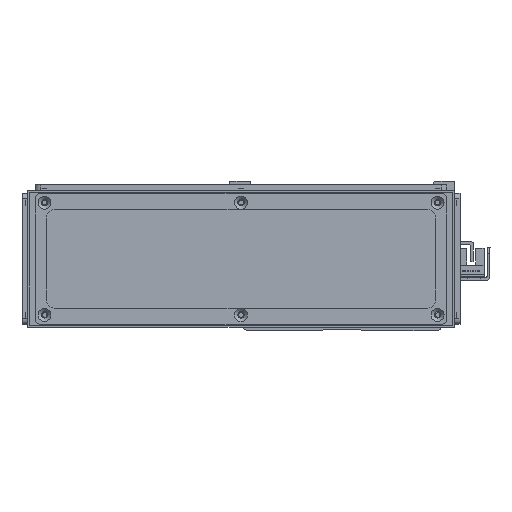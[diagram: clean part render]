
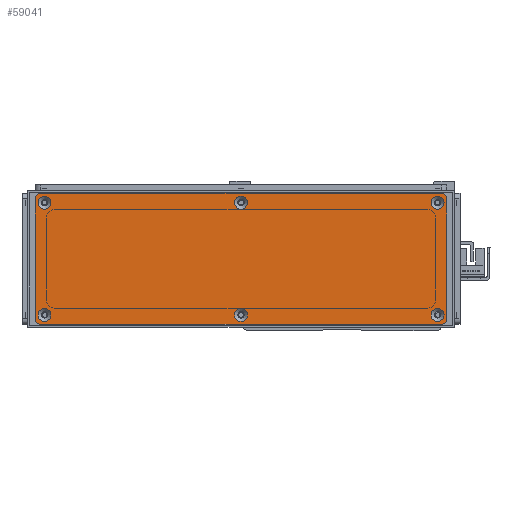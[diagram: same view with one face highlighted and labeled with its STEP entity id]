
A CAD part, front view. The second image highlights one B-rep face of the part: STEP entity #59041.
In plain terms, the highlighted planar face has unit normal (0, -1, 0).
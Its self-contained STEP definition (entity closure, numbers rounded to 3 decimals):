
#2574=FACE_BOUND('',#10182,.T.);
#2575=FACE_BOUND('',#10183,.T.);
#2576=FACE_BOUND('',#10184,.T.);
#2577=FACE_BOUND('',#10185,.T.);
#2578=FACE_BOUND('',#10186,.T.);
#2579=FACE_BOUND('',#10187,.T.);
#3894=CIRCLE('',#63621,3.45);
#3897=CIRCLE('',#63626,3.45);
#3900=CIRCLE('',#63631,3.45);
#3903=CIRCLE('',#63636,3.45);
#3906=CIRCLE('',#63641,3.45);
#3909=CIRCLE('',#63646,3.45);
#3912=CIRCLE('',#63651,3.);
#3914=CIRCLE('',#63654,3.);
#3915=CIRCLE('',#63655,3.);
#3916=CIRCLE('',#63656,3.);
#6799=FACE_OUTER_BOUND('',#10181,.T.);
#10181=EDGE_LOOP('',(#53491,#53492,#53493,#53494,#53495,#53496,#53497,#53498));
#10182=EDGE_LOOP('',(#53499));
#10183=EDGE_LOOP('',(#53500));
#10184=EDGE_LOOP('',(#53501));
#10185=EDGE_LOOP('',(#53502));
#10186=EDGE_LOOP('',(#53503));
#10187=EDGE_LOOP('',(#53504));
#16747=LINE('',#99151,#23344);
#16748=LINE('',#99155,#23345);
#16749=LINE('',#99159,#23346);
#16750=LINE('',#99162,#23347);
#23344=VECTOR('',#78577,10.);
#23345=VECTOR('',#78580,10.);
#23346=VECTOR('',#78583,10.);
#23347=VECTOR('',#78586,10.);
#28915=VERTEX_POINT('',#99081);
#28918=VERTEX_POINT('',#99091);
#28921=VERTEX_POINT('',#99101);
#28924=VERTEX_POINT('',#99111);
#28927=VERTEX_POINT('',#99121);
#28930=VERTEX_POINT('',#99131);
#28933=VERTEX_POINT('',#99141);
#28934=VERTEX_POINT('',#99142);
#28937=VERTEX_POINT('',#99150);
#28938=VERTEX_POINT('',#99152);
#28939=VERTEX_POINT('',#99154);
#28940=VERTEX_POINT('',#99156);
#28941=VERTEX_POINT('',#99158);
#28942=VERTEX_POINT('',#99160);
#37127=EDGE_CURVE('',#28915,#28915,#3894,.T.);
#37132=EDGE_CURVE('',#28918,#28918,#3897,.T.);
#37137=EDGE_CURVE('',#28921,#28921,#3900,.T.);
#37142=EDGE_CURVE('',#28924,#28924,#3903,.T.);
#37147=EDGE_CURVE('',#28927,#28927,#3906,.T.);
#37152=EDGE_CURVE('',#28930,#28930,#3909,.T.);
#37157=EDGE_CURVE('',#28933,#28934,#3912,.T.);
#37161=EDGE_CURVE('',#28933,#28937,#16747,.T.);
#37162=EDGE_CURVE('',#28938,#28937,#3914,.T.);
#37163=EDGE_CURVE('',#28938,#28939,#16748,.T.);
#37164=EDGE_CURVE('',#28940,#28939,#3915,.T.);
#37165=EDGE_CURVE('',#28940,#28941,#16749,.T.);
#37166=EDGE_CURVE('',#28942,#28941,#3916,.T.);
#37167=EDGE_CURVE('',#28942,#28934,#16750,.T.);
#53491=ORIENTED_EDGE('',*,*,#37157,.F.);
#53492=ORIENTED_EDGE('',*,*,#37161,.T.);
#53493=ORIENTED_EDGE('',*,*,#37162,.F.);
#53494=ORIENTED_EDGE('',*,*,#37163,.T.);
#53495=ORIENTED_EDGE('',*,*,#37164,.F.);
#53496=ORIENTED_EDGE('',*,*,#37165,.T.);
#53497=ORIENTED_EDGE('',*,*,#37166,.F.);
#53498=ORIENTED_EDGE('',*,*,#37167,.T.);
#53499=ORIENTED_EDGE('',*,*,#37127,.T.);
#53500=ORIENTED_EDGE('',*,*,#37132,.T.);
#53501=ORIENTED_EDGE('',*,*,#37137,.T.);
#53502=ORIENTED_EDGE('',*,*,#37142,.T.);
#53503=ORIENTED_EDGE('',*,*,#37147,.T.);
#53504=ORIENTED_EDGE('',*,*,#37152,.T.);
#56179=PLANE('',#63653);
#59041=ADVANCED_FACE('',(#6799,#2574,#2575,#2576,#2577,#2578,#2579),#56179,
 .T.);
#63621=AXIS2_PLACEMENT_3D('',#99082,#78497,#78498);
#63626=AXIS2_PLACEMENT_3D('',#99092,#78509,#78510);
#63631=AXIS2_PLACEMENT_3D('',#99102,#78521,#78522);
#63636=AXIS2_PLACEMENT_3D('',#99112,#78533,#78534);
#63641=AXIS2_PLACEMENT_3D('',#99122,#78545,#78546);
#63646=AXIS2_PLACEMENT_3D('',#99132,#78557,#78558);
#63651=AXIS2_PLACEMENT_3D('',#99143,#78569,#78570);
#63653=AXIS2_PLACEMENT_3D('',#99149,#78575,#78576);
#63654=AXIS2_PLACEMENT_3D('',#99153,#78578,#78579);
#63655=AXIS2_PLACEMENT_3D('',#99157,#78581,#78582);
#63656=AXIS2_PLACEMENT_3D('',#99161,#78584,#78585);
#78497=DIRECTION('center_axis',(0.,1.,0.));
#78498=DIRECTION('ref_axis',(1.,0.,0.));
#78509=DIRECTION('center_axis',(0.,1.,0.));
#78510=DIRECTION('ref_axis',(1.,0.,0.));
#78521=DIRECTION('center_axis',(0.,1.,0.));
#78522=DIRECTION('ref_axis',(1.,0.,0.));
#78533=DIRECTION('center_axis',(0.,1.,0.));
#78534=DIRECTION('ref_axis',(1.,0.,0.));
#78545=DIRECTION('center_axis',(0.,1.,0.));
#78546=DIRECTION('ref_axis',(1.,0.,0.));
#78557=DIRECTION('center_axis',(0.,1.,0.));
#78558=DIRECTION('ref_axis',(1.,0.,0.));
#78569=DIRECTION('center_axis',(0.,1.,0.));
#78570=DIRECTION('ref_axis',(-0.707,0.,0.707));
#78575=DIRECTION('center_axis',(0.,-1.,0.));
#78576=DIRECTION('ref_axis',(0.,0.,-1.));
#78577=DIRECTION('',(0.,0.,-1.));
#78578=DIRECTION('center_axis',(0.,1.,0.));
#78579=DIRECTION('ref_axis',(-0.707,0.,-0.707));
#78580=DIRECTION('',(1.,0.,0.));
#78581=DIRECTION('center_axis',(0.,1.,0.));
#78582=DIRECTION('ref_axis',(0.707,0.,-0.707));
#78583=DIRECTION('',(0.,0.,1.));
#78584=DIRECTION('center_axis',(0.,1.,0.));
#78585=DIRECTION('ref_axis',(0.707,0.,0.707));
#78586=DIRECTION('',(-1.,0.,0.));
#99081=CARTESIAN_POINT('',(101.55,-1.5,30.));
#99082=CARTESIAN_POINT('Origin',(105.,-1.5,30.));
#99091=CARTESIAN_POINT('',(-3.45,-1.5,-30.));
#99092=CARTESIAN_POINT('Origin',(0.,-1.5,-30.));
#99101=CARTESIAN_POINT('',(-108.45,-1.5,30.));
#99102=CARTESIAN_POINT('Origin',(-105.,-1.5,30.));
#99111=CARTESIAN_POINT('',(-108.45,-1.5,-30.));
#99112=CARTESIAN_POINT('Origin',(-105.,-1.5,-30.));
#99121=CARTESIAN_POINT('',(-3.45,-1.5,30.));
#99122=CARTESIAN_POINT('Origin',(0.,-1.5,30.));
#99131=CARTESIAN_POINT('',(101.55,-1.5,-30.));
#99132=CARTESIAN_POINT('Origin',(105.,-1.5,-30.));
#99141=CARTESIAN_POINT('',(-110.,-1.5,32.));
#99142=CARTESIAN_POINT('',(-107.,-1.5,35.));
#99143=CARTESIAN_POINT('Origin',(-107.,-1.5,32.));
#99149=CARTESIAN_POINT('Origin',(0.,-1.5,0.));
#99150=CARTESIAN_POINT('',(-110.,-1.5,-32.));
#99151=CARTESIAN_POINT('',(-110.,-1.5,35.));
#99152=CARTESIAN_POINT('',(-107.,-1.5,-35.));
#99153=CARTESIAN_POINT('Origin',(-107.,-1.5,-32.));
#99154=CARTESIAN_POINT('',(107.,-1.5,-35.));
#99155=CARTESIAN_POINT('',(-110.,-1.5,-35.));
#99156=CARTESIAN_POINT('',(110.,-1.5,-32.));
#99157=CARTESIAN_POINT('Origin',(107.,-1.5,-32.));
#99158=CARTESIAN_POINT('',(110.,-1.5,32.));
#99159=CARTESIAN_POINT('',(110.,-1.5,-35.));
#99160=CARTESIAN_POINT('',(107.,-1.5,35.));
#99161=CARTESIAN_POINT('Origin',(107.,-1.5,32.));
#99162=CARTESIAN_POINT('',(110.,-1.5,35.));
